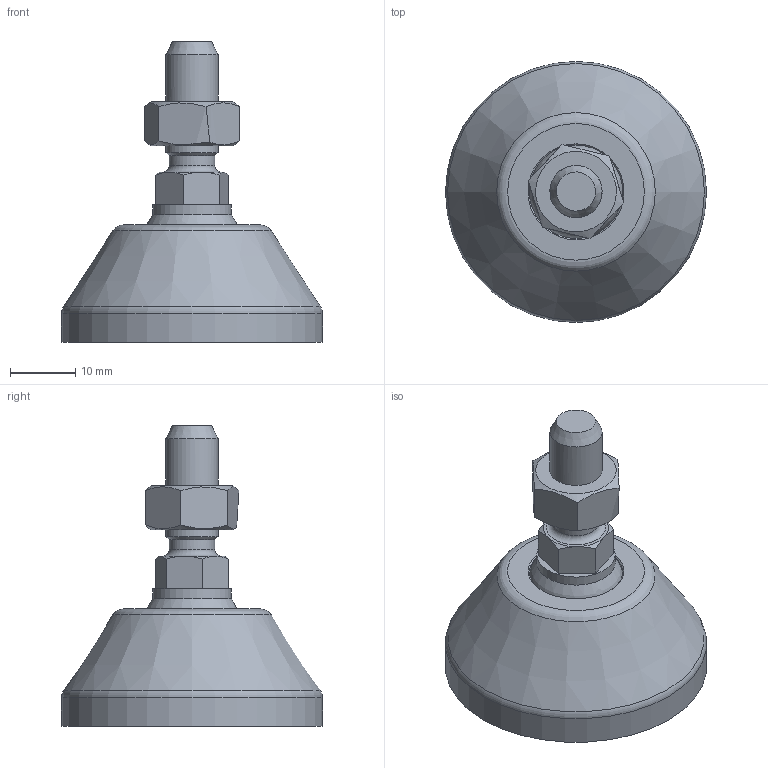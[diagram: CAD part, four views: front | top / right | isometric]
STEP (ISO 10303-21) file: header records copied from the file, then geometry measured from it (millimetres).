
FILE_DESCRIPTION(('STEP AP203'), '1');
FILE_NAME('栖闉罻', '', ('UNSPECIFIED'), ('UNSPECIFIED'), 'C3D Converter', 'C3D Toolkit', '');
FILE_SCHEMA(('CONFIG_CONTROL_DESIGN'));
Length unit declared in the file: millimetre
Products named in the file (4): A00015.1040; A00020.108040
Assembly tree (3 placements, depth 3):
  (unnamed)
    A00015.1040
    A00020.108040
      (unnamed)
Bounding box: 40 x 40 x 46.1 mm (x, y, z)
Volume: 13503.3 mm3; surface area: 8127.4 mm2
Topology: 3 solids, 3 shells, 142 faces, 405 edges, 273 vertices
Faces by surface type: plane 78, cylinder 26, torus 21, cone 15, sphere 2
Full cylindrical faces by diameter (mm): 6.647 x1, 7 x1, 8 x1, 12 x1, 14.3 x1, 15 x2, 15.5 x1, 32 x1, 40 x1
Entity records: 8321 total; most frequent: CARTESIAN_POINT 3367, ORIENTED_EDGE 756, DIRECTION 752, EDGE_CURVE 378, AXIS2_PLACEMENT_3D 303, VERTEX_POINT 272, EDGE_LOOP 174, FACE_BOUND 157
